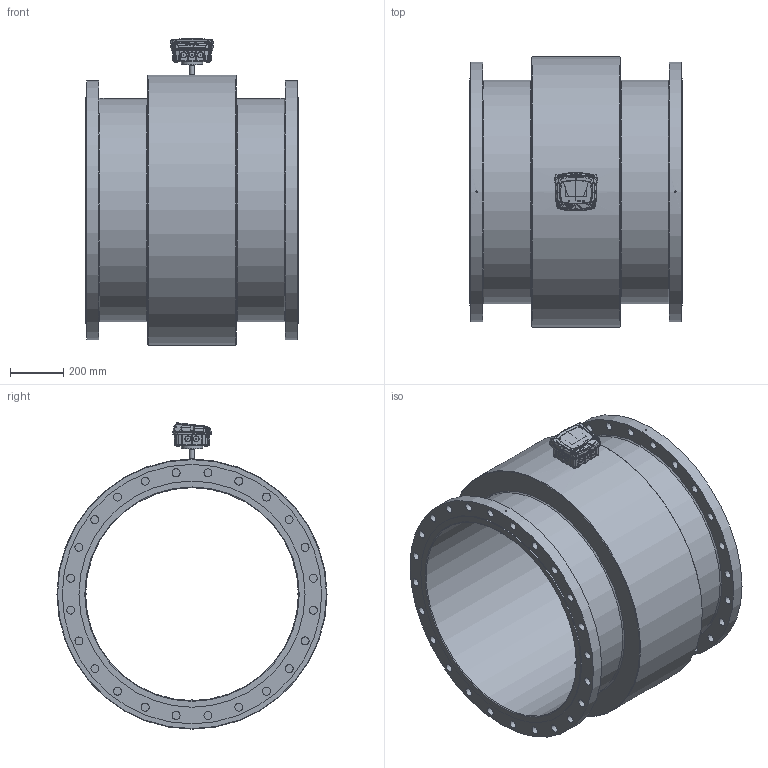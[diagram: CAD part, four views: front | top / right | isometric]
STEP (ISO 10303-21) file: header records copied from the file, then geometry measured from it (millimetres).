
FILE_DESCRIPTION((''),'2;1');
FILE_NAME('C:\Users\Claus\Dropbox\Projects 2011 - 2012\MJK Automation AS\DN 800 - DIN EN-1092-1.stp','2014-10-24T15:10:17',('Claus'),(''),'Autodesk Inventor 2013','Autodesk Inventor 2013','');
FILE_SCHEMA(('AUTOMOTIVE_DESIGN { 1 0 10303 214 1 1 1 1 }'));
Length unit declared in the file: millimetre
Products named in the file (7): DN 800 - DIN EN-1092-1; FC_MagFlux_assembly_r1; CH Bund ml; FC Top rev 06.04; CH 03.02; Electrode group DN15 - DN32
Assembly tree (8 placements, depth 3):
  DN 800 - DIN EN-1092-1
    DN 800 - DIN EN-1092-1
    FC_MagFlux_assembly_r1
      CH Bund ml
      FC Top rev 06.04
      CH 03.02
    Electrode group DN15 - DN32  x3
Bounding box: 800 x 1015 x 1151.34 mm (x, y, z)
Volume: 141923699 mm3; surface area: 6064439.9 mm2
Topology: 10 solids, 10 shells, 2967 faces, 8090 edges, 5267 vertices
Faces by surface type: bspline 1752, plane 810, cylinder 242, cone 123, torus 25, revolution 9, sphere 6
Full cylindrical faces by diameter (mm): 2.5 x3, 3 x6, 4 x1, 6 x2, 6.5 x4, 7.042 x4, 8 x3, 8.048 x4, 12.072 x4, 15 x1, 18 x1, 18.108 x1, 30 x48, 64 x1, 800 x1, 840 x2, 850 x2, 975 x2, 1015 x1
Entity records: 235148 total; most frequent: CARTESIAN_POINT 171724, ORIENTED_EDGE 15624, DIRECTION 7949, EDGE_CURVE 7812, VERTEX_POINT 5205, EDGE_LOOP 3401, VECTOR 3112, LINE 3112
